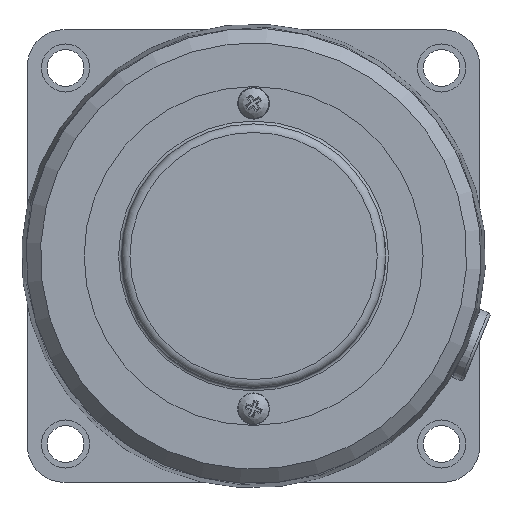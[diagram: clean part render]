
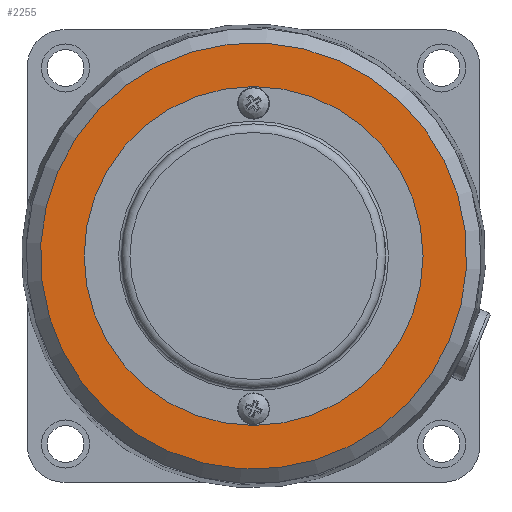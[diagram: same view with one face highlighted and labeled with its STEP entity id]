
A CAD part, left-side view. The second image highlights one B-rep face of the part: STEP entity #2255.
In plain terms, the highlighted planar face has unit normal (-1, 0, 0).
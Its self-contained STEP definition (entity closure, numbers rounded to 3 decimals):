
#57=PLANE('',#2428);
#143=FACE_BOUND('',#755,.T.);
#610=FACE_OUTER_BOUND('',#754,.T.);
#754=EDGE_LOOP('',(#1596));
#755=EDGE_LOOP('',(#1597));
#929=CIRCLE('',#2429,37.671);
#930=CIRCLE('',#2430,29.95);
#1045=VERTEX_POINT('',#3420);
#1046=VERTEX_POINT('',#3422);
#1263=EDGE_CURVE('',#1045,#1045,#929,.F.);
#1264=EDGE_CURVE('',#1046,#1046,#930,.T.);
#1596=ORIENTED_EDGE('',*,*,#1263,.F.);
#1597=ORIENTED_EDGE('',*,*,#1264,.F.);
#2255=ADVANCED_FACE('',(#610,#143),#57,.T.);
#2428=AXIS2_PLACEMENT_3D('',#3419,#2694,#2695);
#2429=AXIS2_PLACEMENT_3D('',#3421,#2696,#2697);
#2430=AXIS2_PLACEMENT_3D('',#3423,#2698,#2699);
#2694=DIRECTION('center_axis',(-1.,0.,0.));
#2695=DIRECTION('ref_axis',(0.,0.059,-0.998));
#2696=DIRECTION('center_axis',(-1.,0.,0.));
#2697=DIRECTION('ref_axis',(0.,0.059,-0.998));
#2698=DIRECTION('center_axis',(-1.,0.,0.));
#2699=DIRECTION('ref_axis',(0.,0.,1.));
#3419=CARTESIAN_POINT('Origin',(-39.,0.,0.));
#3420=CARTESIAN_POINT('',(-39.,-2.226,37.605));
#3421=CARTESIAN_POINT('Origin',(-39.,0.,
0.));
#3422=CARTESIAN_POINT('',(-39.,0.,-29.95));
#3423=CARTESIAN_POINT('Origin',(-39.,0.,0.));
